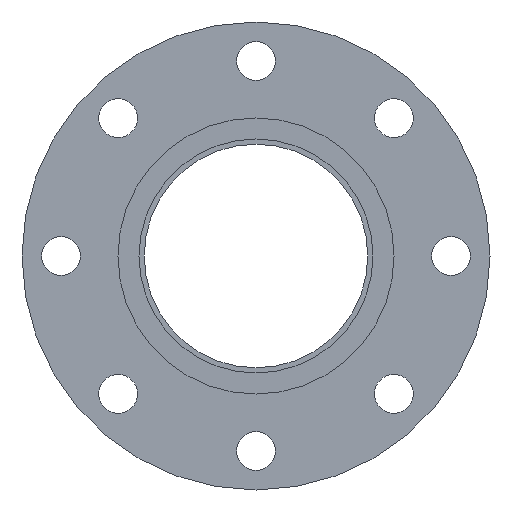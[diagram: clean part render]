
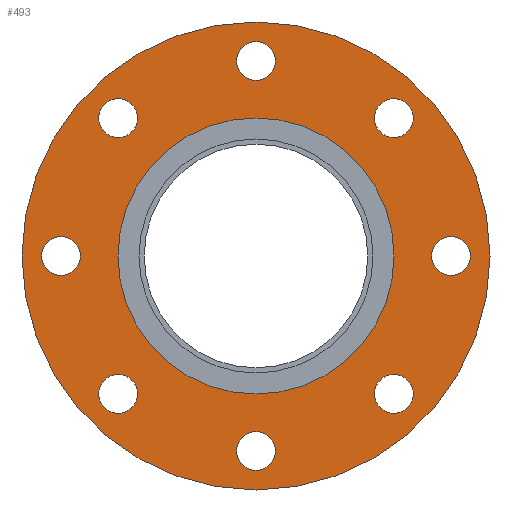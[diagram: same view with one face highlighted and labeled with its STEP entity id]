
A CAD part, left-side view. The second image highlights one B-rep face of the part: STEP entity #493.
In plain terms, the highlighted planar face has unit normal (-1, 0, 0).
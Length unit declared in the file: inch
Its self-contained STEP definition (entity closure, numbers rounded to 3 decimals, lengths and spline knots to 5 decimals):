
#49=FACE_BOUND('',#119,.T.);
#50=FACE_BOUND('',#120,.T.);
#51=FACE_BOUND('',#121,.T.);
#52=FACE_BOUND('',#122,.T.);
#53=FACE_BOUND('',#123,.T.);
#54=FACE_BOUND('',#124,.T.);
#55=FACE_BOUND('',#125,.T.);
#56=FACE_BOUND('',#126,.T.);
#57=FACE_BOUND('',#127,.T.);
#72=PLANE('',#571);
#92=FACE_OUTER_BOUND('',#118,.T.);
#118=EDGE_LOOP('',(#397,#398));
#119=EDGE_LOOP('',(#399));
#120=EDGE_LOOP('',(#400));
#121=EDGE_LOOP('',(#401));
#122=EDGE_LOOP('',(#402));
#123=EDGE_LOOP('',(#403));
#124=EDGE_LOOP('',(#404));
#125=EDGE_LOOP('',(#405));
#126=EDGE_LOOP('',(#406));
#127=EDGE_LOOP('',(#407,#408));
#173=CIRCLE('',#520,0.375);
#175=CIRCLE('',#523,0.375);
#177=CIRCLE('',#526,0.375);
#179=CIRCLE('',#529,0.375);
#181=CIRCLE('',#532,0.375);
#183=CIRCLE('',#535,0.375);
#185=CIRCLE('',#538,0.375);
#187=CIRCLE('',#541,0.375);
#206=CIRCLE('',#569,2.655);
#207=CIRCLE('',#570,2.655);
#208=CIRCLE('',#572,4.5);
#209=CIRCLE('',#573,4.5);
#217=VERTEX_POINT('',#776);
#219=VERTEX_POINT('',#782);
#221=VERTEX_POINT('',#788);
#223=VERTEX_POINT('',#794);
#225=VERTEX_POINT('',#800);
#227=VERTEX_POINT('',#806);
#229=VERTEX_POINT('',#812);
#231=VERTEX_POINT('',#818);
#250=VERTEX_POINT('',#870);
#251=VERTEX_POINT('',#871);
#252=VERTEX_POINT('',#876);
#253=VERTEX_POINT('',#877);
#262=EDGE_CURVE('',#217,#217,#173,.T.);
#265=EDGE_CURVE('',#219,#219,#175,.T.);
#268=EDGE_CURVE('',#221,#221,#177,.T.);
#271=EDGE_CURVE('',#223,#223,#179,.T.);
#274=EDGE_CURVE('',#225,#225,#181,.T.);
#277=EDGE_CURVE('',#227,#227,#183,.T.);
#280=EDGE_CURVE('',#229,#229,#185,.T.);
#283=EDGE_CURVE('',#231,#231,#187,.T.);
#306=EDGE_CURVE('',#250,#251,#206,.T.);
#307=EDGE_CURVE('',#251,#250,#207,.T.);
#309=EDGE_CURVE('',#252,#253,#208,.T.);
#310=EDGE_CURVE('',#253,#252,#209,.T.);
#397=ORIENTED_EDGE('',*,*,#309,.F.);
#398=ORIENTED_EDGE('',*,*,#310,.F.);
#399=ORIENTED_EDGE('',*,*,#262,.T.);
#400=ORIENTED_EDGE('',*,*,#265,.T.);
#401=ORIENTED_EDGE('',*,*,#268,.T.);
#402=ORIENTED_EDGE('',*,*,#271,.T.);
#403=ORIENTED_EDGE('',*,*,#274,.T.);
#404=ORIENTED_EDGE('',*,*,#277,.T.);
#405=ORIENTED_EDGE('',*,*,#280,.T.);
#406=ORIENTED_EDGE('',*,*,#283,.T.);
#407=ORIENTED_EDGE('',*,*,#306,.T.);
#408=ORIENTED_EDGE('',*,*,#307,.T.);
#493=ADVANCED_FACE('',(#92,#49,#50,#51,#52,#53,#54,#55,#56,#57),#72,.T.);
#520=AXIS2_PLACEMENT_3D('',#778,#604,#605);
#523=AXIS2_PLACEMENT_3D('',#784,#611,#612);
#526=AXIS2_PLACEMENT_3D('',#790,#618,#619);
#529=AXIS2_PLACEMENT_3D('',#796,#625,#626);
#532=AXIS2_PLACEMENT_3D('',#802,#632,#633);
#535=AXIS2_PLACEMENT_3D('',#808,#639,#640);
#538=AXIS2_PLACEMENT_3D('',#814,#646,#647);
#541=AXIS2_PLACEMENT_3D('',#820,#653,#654);
#569=AXIS2_PLACEMENT_3D('',#872,#713,#714);
#570=AXIS2_PLACEMENT_3D('',#873,#715,#716);
#571=AXIS2_PLACEMENT_3D('',#875,#718,#719);
#572=AXIS2_PLACEMENT_3D('',#878,#720,#721);
#573=AXIS2_PLACEMENT_3D('',#879,#722,#723);
#604=DIRECTION('center_axis',(1.,0.,0.));
#605=DIRECTION('ref_axis',(0.,0.707,0.707));
#611=DIRECTION('center_axis',(1.,0.,0.));
#612=DIRECTION('ref_axis',(0.,1.,0.));
#618=DIRECTION('center_axis',(1.,0.,0.));
#619=DIRECTION('ref_axis',(0.,0.707,-0.707));
#625=DIRECTION('center_axis',(1.,0.,0.));
#626=DIRECTION('ref_axis',(0.,0.,-1.));
#632=DIRECTION('center_axis',(1.,0.,0.));
#633=DIRECTION('ref_axis',(0.,-0.707,-0.707));
#639=DIRECTION('center_axis',(1.,0.,0.));
#640=DIRECTION('ref_axis',(0.,-1.,0.));
#646=DIRECTION('center_axis',(1.,0.,0.));
#647=DIRECTION('ref_axis',(0.,-0.707,0.707));
#653=DIRECTION('center_axis',(1.,0.,0.));
#654=DIRECTION('ref_axis',(0.,0.,1.));
#713=DIRECTION('center_axis',(1.,0.,0.));
#714=DIRECTION('ref_axis',(0.,0.,-1.));
#715=DIRECTION('center_axis',(1.,0.,0.));
#716=DIRECTION('ref_axis',(0.,0.,-1.));
#718=DIRECTION('center_axis',(-1.,0.,0.));
#719=DIRECTION('ref_axis',(0.,0.,1.));
#720=DIRECTION('center_axis',(1.,0.,0.));
#721=DIRECTION('ref_axis',(0.,0.,-1.));
#722=DIRECTION('center_axis',(1.,0.,0.));
#723=DIRECTION('ref_axis',(0.,0.,-1.));
#776=CARTESIAN_POINT('',(-0.9425,2.38649,-2.91682));
#778=CARTESIAN_POINT('Origin',(-0.9425,2.65165,-2.65165));
#782=CARTESIAN_POINT('',(-0.9425,-0.375,-3.75));
#784=CARTESIAN_POINT('Origin',(-0.9425,0.,-3.75));
#788=CARTESIAN_POINT('',(-0.9425,-2.91682,-2.38649));
#790=CARTESIAN_POINT('Origin',(-0.9425,-2.65165,-2.65165));
#794=CARTESIAN_POINT('',(-0.9425,-3.75,0.375));
#796=CARTESIAN_POINT('Origin',(-0.9425,-3.75,0.));
#800=CARTESIAN_POINT('',(-0.9425,-2.38649,2.91682));
#802=CARTESIAN_POINT('Origin',(-0.9425,-2.65165,2.65165));
#806=CARTESIAN_POINT('',(-0.9425,0.375,3.75));
#808=CARTESIAN_POINT('Origin',(-0.9425,0.,3.75));
#812=CARTESIAN_POINT('',(-0.9425,2.91682,2.38649));
#814=CARTESIAN_POINT('Origin',(-0.9425,2.65165,2.65165));
#818=CARTESIAN_POINT('',(-0.9425,3.75,-0.375));
#820=CARTESIAN_POINT('Origin',(-0.9425,3.75,0.));
#870=CARTESIAN_POINT('',(-0.9425,2.655,0.));
#871=CARTESIAN_POINT('',(-0.9425,-2.655,0.));
#872=CARTESIAN_POINT('Origin',(-0.9425,0.,
0.));
#873=CARTESIAN_POINT('Origin',(-0.9425,0.,
0.));
#875=CARTESIAN_POINT('Origin',(-0.9425,4.5,0.));
#876=CARTESIAN_POINT('',(-0.9425,4.5,0.));
#877=CARTESIAN_POINT('',(-0.9425,-4.5,0.));
#878=CARTESIAN_POINT('Origin',(-0.9425,0.,0.));
#879=CARTESIAN_POINT('Origin',(-0.9425,0.,0.));
